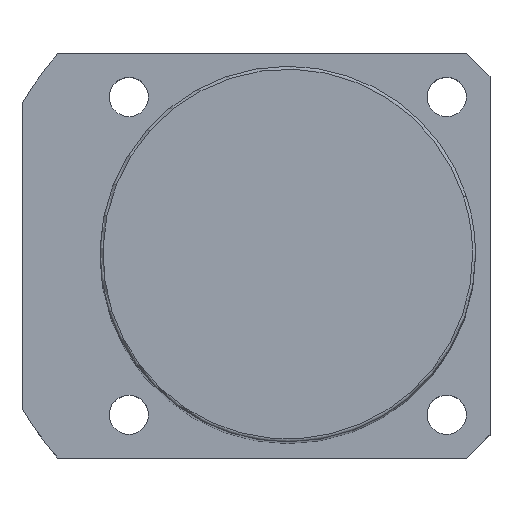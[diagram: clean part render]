
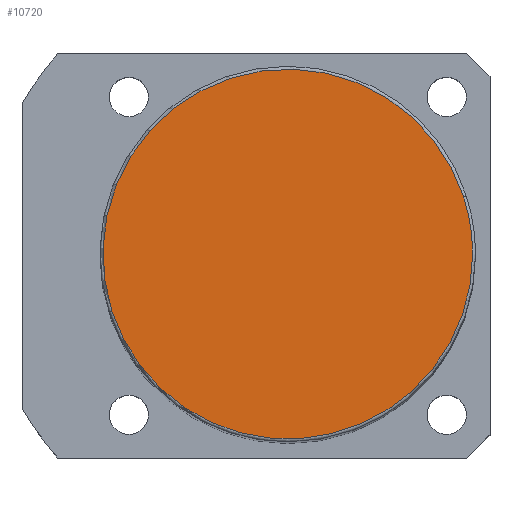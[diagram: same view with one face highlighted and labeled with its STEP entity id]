
A CAD part, top view. The second image highlights one B-rep face of the part: STEP entity #10720.
In plain terms, the highlighted planar face has unit normal (0, 0, 1).
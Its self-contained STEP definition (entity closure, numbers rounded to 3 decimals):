
#10653=CARTESIAN_POINT('',(30.434,9.889,191.0));
#10654=VERTEX_POINT('',#10653);
#10672=CARTESIAN_POINT('',(-30.434,-9.889,191.0));
#10673=VERTEX_POINT('',#10672);
#10681=CARTESIAN_POINT('',(0.0,0.0,191.0));
#10682=DIRECTION('',(0.0,0.0,1.0));
#10683=DIRECTION('',(1.0,0.0,0.0));
#10684=AXIS2_PLACEMENT_3D('',#10681,#10682,#10683);
#10685=CIRCLE('',#10684,32.0);
#10686=EDGE_CURVE('no 4883',#10654,#10673,#10685,.T.);
#10696=CARTESIAN_POINT('',(32.0,0.0,191.0));
#10697=VERTEX_POINT('',#10696);
#10698=CARTESIAN_POINT('',(0.0,0.0,191.0));
#10699=DIRECTION('',(0.0,0.0,1.0));
#10700=DIRECTION('',(1.0,0.0,0.0));
#10701=AXIS2_PLACEMENT_3D('',#10698,#10699,#10700);
#10702=CIRCLE('',#10701,32.0);
#10703=EDGE_CURVE('no 4892',#10697,#10654,#10702,.T.);
#10704=ORIENTED_EDGE('',*,*,#10703,.T.);
#10705=ORIENTED_EDGE('',*,*,#10686,.T.);
#10706=CARTESIAN_POINT('',(0.0,0.0,191.0));
#10707=DIRECTION('',(0.0,0.0,1.0));
#10708=DIRECTION('',(1.0,0.0,0.0));
#10709=AXIS2_PLACEMENT_3D('',#10706,#10707,#10708);
#10710=CIRCLE('',#10709,32.0);
#10711=EDGE_CURVE('no 4898',#10673,#10697,#10710,.T.);
#10712=ORIENTED_EDGE('',*,*,#10711,.T.);
#10713=EDGE_LOOP('',(#10704,#10705,#10712));
#10714=FACE_OUTER_BOUND('',#10713,.T.);
#10715=CARTESIAN_POINT('',(0.0,0.0,191.0));
#10716=DIRECTION('',(0.0,0.0,1.0));
#10717=DIRECTION('',(1.0,0.0,0.0));
#10718=AXIS2_PLACEMENT_3D('',#10715,#10716,#10717);
#10719=PLANE('',#10718);
#10720=ADVANCED_FACE('no 4885',(#10714),#10719,.T.);
